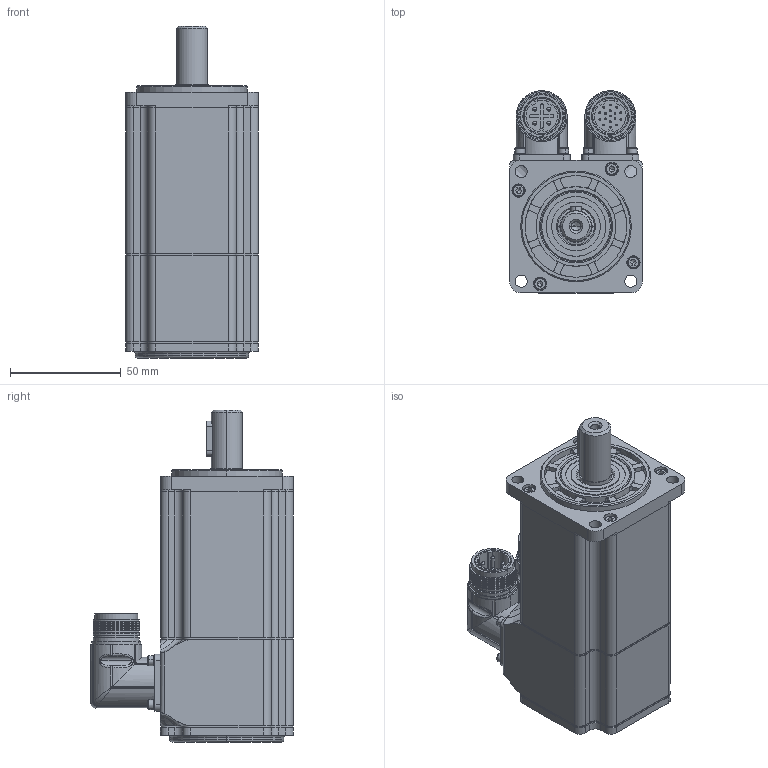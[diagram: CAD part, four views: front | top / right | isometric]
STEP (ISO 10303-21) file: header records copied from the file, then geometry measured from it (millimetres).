
FILE_DESCRIPTION (( 'STEP AP203' ), '1' );
FILE_NAME ('200.STEP', '2014-09-25T07:12:34', ( '微软用户' ), ( '微软中国' ), 'SwSTEP 2.0', 'SolidWorks 2011', '' );
FILE_SCHEMA (( 'CONFIG_CONTROL_DESIGN' ));
Length unit declared in the file: millimetre
Products named in the file (1): 200
Bounding box: 60 x 91.5 x 150.1 mm (x, y, z)
Volume: 154212.6 mm3; surface area: 112184.9 mm2
Topology: 65 solids, 65 shells, 2305 faces, 5730 edges, 3650 vertices
Faces by surface type: cylinder 1048, plane 918, cone 151, bspline 88, torus 58, sphere 42
Entity records: 73006 total; most frequent: CARTESIAN_POINT 17488, DIRECTION 12103, ORIENTED_EDGE 11172, EDGE_CURVE 5586, AXIS2_PLACEMENT_3D 4651, VERTEX_POINT 3608, LINE 2801, VECTOR 2801
